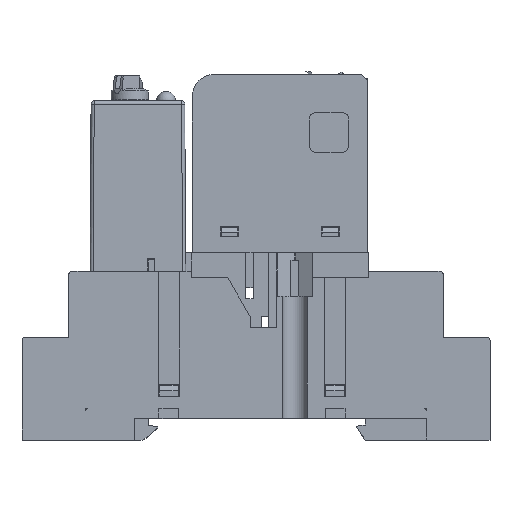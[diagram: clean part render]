
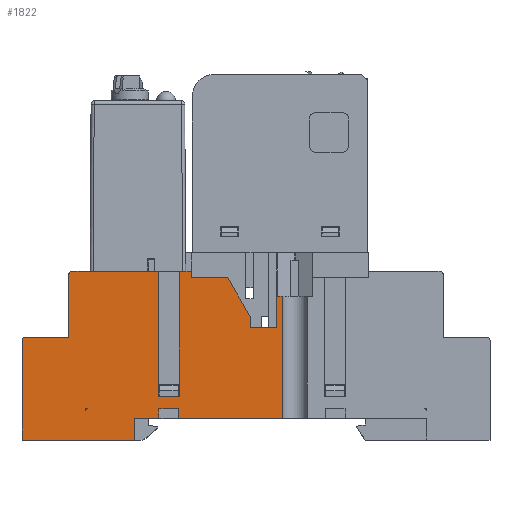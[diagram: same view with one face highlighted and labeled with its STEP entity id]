
A CAD part, top view. The second image highlights one B-rep face of the part: STEP entity #1822.
In plain terms, the highlighted planar face has unit normal (0, 0, 1).
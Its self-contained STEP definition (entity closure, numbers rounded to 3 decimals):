
#1822=ADVANCED_FACE('',(#39800,#39802),#39804,.T.);
#39800=FACE_BOUND('',#39801,.T.);
#39801=EDGE_LOOP('',(#76061,#76062,#76063,#76064,#76065,#76066,#76067,#76068,#76069,
#76070,#76071,#76072,#76073,#76074,#76075,#76076,#76077,#76078,#76079,#76080,#76081,
#76082,#76083,#76084,#76085));
#39802=FACE_BOUND('',#39803,.T.);
#39803=EDGE_LOOP('',(#76086,#76087,#76088));
#39804=PLANE('',#39805);
#39805=AXIS2_PLACEMENT_3D('',#39806,#39807,#39808);
#39806=CARTESIAN_POINT('',(-43.65,0.,15.));
#39807=DIRECTION('',(0.,0.,1.));
#39808=DIRECTION('',(1.,0.,0.));
#76061=ORIENTED_EDGE('',*,*,#98747,.T.);
#76062=ORIENTED_EDGE('',*,*,#98748,.T.);
#76063=ORIENTED_EDGE('',*,*,#98749,.T.);
#76064=ORIENTED_EDGE('',*,*,#98327,.F.);
#76065=ORIENTED_EDGE('',*,*,#98746,.F.);
#76066=ORIENTED_EDGE('',*,*,#98750,.T.);
#76067=ORIENTED_EDGE('',*,*,#98751,.T.);
#76068=ORIENTED_EDGE('',*,*,#98752,.F.);
#76069=ORIENTED_EDGE('',*,*,#98753,.F.);
#76070=ORIENTED_EDGE('',*,*,#98754,.T.);
#76071=ORIENTED_EDGE('',*,*,#98755,.T.);
#76072=ORIENTED_EDGE('',*,*,#98756,.F.);
#76073=ORIENTED_EDGE('',*,*,#98757,.T.);
#76074=ORIENTED_EDGE('',*,*,#98758,.T.);
#76075=ORIENTED_EDGE('',*,*,#98759,.T.);
#76076=ORIENTED_EDGE('',*,*,#98760,.F.);
#76077=ORIENTED_EDGE('',*,*,#98761,.T.);
#76078=ORIENTED_EDGE('',*,*,#98762,.F.);
#76079=ORIENTED_EDGE('',*,*,#98763,.T.);
#76080=ORIENTED_EDGE('',*,*,#98764,.T.);
#76081=ORIENTED_EDGE('',*,*,#98765,.T.);
#76082=ORIENTED_EDGE('',*,*,#98766,.T.);
#76083=ORIENTED_EDGE('',*,*,#98767,.T.);
#76084=ORIENTED_EDGE('',*,*,#98768,.T.);
#76085=ORIENTED_EDGE('',*,*,#98331,.F.);
#76086=ORIENTED_EDGE('',*,*,#98769,.T.);
#76087=ORIENTED_EDGE('',*,*,#98770,.T.);
#76088=ORIENTED_EDGE('',*,*,#98771,.F.);
#98327=EDGE_CURVE('',#110148,#110150,#110151,.T.);
#98331=EDGE_CURVE('',#110156,#110158,#110159,.T.);
#98746=EDGE_CURVE('',#110867,#110148,#110869,.F.);
#98747=EDGE_CURVE('',#110156,#110870,#110871,.F.);
#98748=EDGE_CURVE('',#110870,#110872,#110873,.F.);
#98749=EDGE_CURVE('',#110872,#110150,#110874,.F.);
#98750=EDGE_CURVE('',#110867,#110875,#110876,.F.);
#98751=EDGE_CURVE('',#110875,#110877,#110878,.T.);
#98752=EDGE_CURVE('',#110879,#110877,#110880,.F.);
#98753=EDGE_CURVE('',#110881,#110879,#110882,.T.);
#98754=EDGE_CURVE('',#110881,#110883,#110884,.T.);
#98755=EDGE_CURVE('',#110883,#110885,#110886,.T.);
#98756=EDGE_CURVE('',#110887,#110885,#110888,.T.);
#98757=EDGE_CURVE('',#110887,#110889,#110890,.F.);
#98758=EDGE_CURVE('',#110889,#110891,#110892,.F.);
#98759=EDGE_CURVE('',#110891,#110893,#110894,.F.);
#98760=EDGE_CURVE('',#110895,#110893,#110896,.T.);
#98761=EDGE_CURVE('',#110895,#110897,#110898,.T.);
#98762=EDGE_CURVE('',#110899,#110897,#110900,.T.);
#98763=EDGE_CURVE('',#110899,#110901,#110902,.F.);
#98764=EDGE_CURVE('',#110901,#110903,#110904,.F.);
#98765=EDGE_CURVE('',#110903,#110905,#110906,.F.);
#98766=EDGE_CURVE('',#110905,#110907,#110908,.F.);
#98767=EDGE_CURVE('',#110907,#110909,#110910,.F.);
#98768=EDGE_CURVE('',#110909,#110158,#110911,.F.);
#98769=EDGE_CURVE('',#110912,#110913,#110914,.F.);
#98770=EDGE_CURVE('',#110913,#110915,#110916,.F.);
#98771=EDGE_CURVE('',#110912,#110915,#110917,.F.);
#110148=VERTEX_POINT('',#129923);
#110150=VERTEX_POINT('',#129927);
#110151=LINE('',#129928,#129929);
#110156=VERTEX_POINT('',#129939);
#110158=VERTEX_POINT('',#129943);
#110159=LINE('',#129944,#129945);
#110867=VERTEX_POINT('',#131535);
#110869=CIRCLE('',#131539,0.5);
#110870=VERTEX_POINT('',#131543);
#110871=LINE('',#131544,#131545);
#110872=VERTEX_POINT('',#131547);
#110873=LINE('',#131548,#131549);
#110874=LINE('',#131551,#131552);
#110875=VERTEX_POINT('',#131554);
#110876=LINE('',#131555,#131556);
#110877=VERTEX_POINT('',#131558);
#110878=LINE('',#131559,#131560);
#110879=VERTEX_POINT('',#131562);
#110880=CIRCLE('',#131563,0.5);
#110881=VERTEX_POINT('',#131567);
#110882=LINE('',#131568,#131569);
#110883=VERTEX_POINT('',#131571);
#110884=LINE('',#131572,#131573);
#110885=VERTEX_POINT('',#131575);
#110886=LINE('',#131576,#131577);
#110887=VERTEX_POINT('',#131579);
#110888=LINE('',#131580,#131581);
#110889=VERTEX_POINT('',#131583);
#110890=LINE('',#131584,#131585);
#110891=VERTEX_POINT('',#131587);
#110892=LINE('',#131588,#131589);
#110893=VERTEX_POINT('',#131591);
#110894=LINE('',#131592,#131593);
#110895=VERTEX_POINT('',#131595);
#110896=LINE('',#131596,#131597);
#110897=VERTEX_POINT('',#131599);
#110898=LINE('',#131600,#131601);
#110899=VERTEX_POINT('',#131603);
#110900=LINE('',#131604,#131605);
#110901=VERTEX_POINT('',#131607);
#110902=LINE('',#131608,#131609);
#110903=VERTEX_POINT('',#131611);
#110904=LINE('',#131612,#131613);
#110905=VERTEX_POINT('',#131615);
#110906=LINE('',#131616,#131617);
#110907=VERTEX_POINT('',#131619);
#110908=LINE('',#131620,#131621);
#110909=VERTEX_POINT('',#131623);
#110910=LINE('',#131624,#131625);
#110911=LINE('',#131627,#131628);
#110912=VERTEX_POINT('',#131630);
#110913=VERTEX_POINT('',#131631);
#110914=LINE('',#131632,#131633);
#110915=VERTEX_POINT('',#131635);
#110916=LINE('',#131636,#131637);
#110917=CIRCLE('',#131639,0.3);
#129923=CARTESIAN_POINT('',(-35.65,27.,15.));
#129927=CARTESIAN_POINT('',(-21.85,27.,15.));
#129928=CARTESIAN_POINT('',(-35.65,27.,15.));
#129929=VECTOR('',#129930,1.);
#129930=DIRECTION('',(1.,0.,0.));
#129939=CARTESIAN_POINT('',(-18.45,27.,15.));
#129943=CARTESIAN_POINT('',(-16.55,27.,15.));
#129944=CARTESIAN_POINT('',(-18.45,27.,15.));
#129945=VECTOR('',#129946,1.);
#129946=DIRECTION('',(1.,0.,0.));
#131535=CARTESIAN_POINT('',(-36.15,26.5,15.));
#131539=AXIS2_PLACEMENT_3D('',#131540,#131541,#131542);
#131540=CARTESIAN_POINT('',(-35.65,26.5,15.));
#131541=DIRECTION('',(0.,-0.,1.));
#131542=DIRECTION('',(0.,1.,0.));
#131543=CARTESIAN_POINT('',(-18.45,7.,15.));
#131544=CARTESIAN_POINT('',(-18.45,7.,15.));
#131545=VECTOR('',#131546,1.);
#131546=DIRECTION('',(0.,1.,0.));
#131547=CARTESIAN_POINT('',(-21.85,7.,15.));
#131548=CARTESIAN_POINT('',(-21.85,7.,15.));
#131549=VECTOR('',#131550,1.);
#131550=DIRECTION('',(1.,0.,0.));
#131551=CARTESIAN_POINT('',(-21.85,27.,15.));
#131552=VECTOR('',#131553,1.);
#131553=DIRECTION('',(0.,-1.,0.));
#131554=CARTESIAN_POINT('',(-36.15,16.5,15.));
#131555=CARTESIAN_POINT('',(-36.15,16.5,15.));
#131556=VECTOR('',#131557,1.);
#131557=DIRECTION('',(0.,1.,0.));
#131558=CARTESIAN_POINT('',(-43.15,16.5,15.));
#131559=CARTESIAN_POINT('',(-36.15,16.5,15.));
#131560=VECTOR('',#131561,1.);
#131561=DIRECTION('',(-1.,0.,0.));
#131562=CARTESIAN_POINT('',(-43.65,16.,15.));
#131563=AXIS2_PLACEMENT_3D('',#131564,#131565,#131566);
#131564=CARTESIAN_POINT('',(-43.15,16.,15.));
#131565=DIRECTION('',(0.,-0.,1.));
#131566=DIRECTION('',(0.,1.,0.));
#131567=CARTESIAN_POINT('',(-43.65,0.,15.));
#131568=CARTESIAN_POINT('',(-43.65,0.,15.));
#131569=VECTOR('',#131570,1.);
#131570=DIRECTION('',(0.,1.,0.));
#131571=CARTESIAN_POINT('',(-25.65,0.,15.));
#131572=CARTESIAN_POINT('',(-43.65,0.,15.));
#131573=VECTOR('',#131574,1.);
#131574=DIRECTION('',(1.,0.,0.));
#131575=CARTESIAN_POINT('',(-25.65,3.5,15.));
#131576=CARTESIAN_POINT('',(-25.65,0.,15.));
#131577=VECTOR('',#131578,1.);
#131578=DIRECTION('',(0.,1.,0.));
#131579=CARTESIAN_POINT('',(-21.75,3.5,15.));
#131580=CARTESIAN_POINT('',(-21.75,3.5,15.));
#131581=VECTOR('',#131582,1.);
#131582=DIRECTION('',(-1.,0.,0.));
#131583=CARTESIAN_POINT('',(-21.75,5.,15.));
#131584=CARTESIAN_POINT('',(-21.75,5.,15.));
#131585=VECTOR('',#131586,1.);
#131586=DIRECTION('',(0.,-1.,0.));
#131587=CARTESIAN_POINT('',(-18.55,5.,15.));
#131588=CARTESIAN_POINT('',(-18.55,5.,15.));
#131589=VECTOR('',#131590,1.);
#131590=DIRECTION('',(-1.,0.,0.));
#131591=CARTESIAN_POINT('',(-18.55,3.5,15.));
#131592=CARTESIAN_POINT('',(-18.55,3.5,15.));
#131593=VECTOR('',#131594,1.);
#131594=DIRECTION('',(0.,1.,0.));
#131595=CARTESIAN_POINT('',(-2.,3.5,15.));
#131596=CARTESIAN_POINT('',(-2.,3.5,15.));
#131597=VECTOR('',#131598,1.);
#131598=DIRECTION('',(-1.,0.,0.));
#131599=CARTESIAN_POINT('',(-2.,23.,15.));
#131600=CARTESIAN_POINT('',(-2.,3.5,15.));
#131601=VECTOR('',#131602,1.);
#131602=DIRECTION('',(0.,1.,0.));
#131603=CARTESIAN_POINT('',(-2.9,23.,15.));
#131604=CARTESIAN_POINT('',(-2.9,23.,15.));
#131605=VECTOR('',#131606,1.);
#131606=DIRECTION('',(1.,0.,0.));
#131607=CARTESIAN_POINT('',(-2.9,18.,15.));
#131608=CARTESIAN_POINT('',(-2.9,18.,15.));
#131609=VECTOR('',#131610,1.);
#131610=DIRECTION('',(0.,1.,0.));
#131611=CARTESIAN_POINT('',(-7.15,18.,15.));
#131612=CARTESIAN_POINT('',(-7.15,18.,15.));
#131613=VECTOR('',#131614,1.);
#131614=DIRECTION('',(1.,0.,0.));
#131615=CARTESIAN_POINT('',(-7.15,19.8,15.));
#131616=CARTESIAN_POINT('',(-7.15,19.8,15.));
#131617=VECTOR('',#131618,1.);
#131618=DIRECTION('',(0.,-1.,0.));
#131619=CARTESIAN_POINT('',(-10.73,26.,15.));
#131620=CARTESIAN_POINT('',(-10.73,26.,15.));
#131621=VECTOR('',#131622,1.);
#131622=DIRECTION('',(0.5,-0.866,0.));
#131623=CARTESIAN_POINT('',(-16.55,26.,15.));
#131624=CARTESIAN_POINT('',(-16.55,26.,15.));
#131625=VECTOR('',#131626,1.);
#131626=DIRECTION('',(1.,0.,0.));
#131627=CARTESIAN_POINT('',(-16.55,27.,15.));
#131628=VECTOR('',#131629,1.);
#131629=DIRECTION('',(0.,-1.,0.));
#131630=CARTESIAN_POINT('',(-33.45,4.7,15.));
#131631=CARTESIAN_POINT('',(-33.45,5.,15.));
#131632=CARTESIAN_POINT('',(-33.45,5.,15.));
#131633=VECTOR('',#131634,1.);
#131634=DIRECTION('',(0.,-1.,0.));
#131635=CARTESIAN_POINT('',(-33.15,5.,15.));
#131636=CARTESIAN_POINT('',(-33.15,5.,15.));
#131637=VECTOR('',#131638,1.);
#131638=DIRECTION('',(-1.,0.,0.));
#131639=AXIS2_PLACEMENT_3D('',#131640,#131641,#131642);
#131640=CARTESIAN_POINT('',(-33.15,4.7,15.));
#131641=DIRECTION('',(0.,-0.,1.));
#131642=DIRECTION('',(0.,1.,0.));
